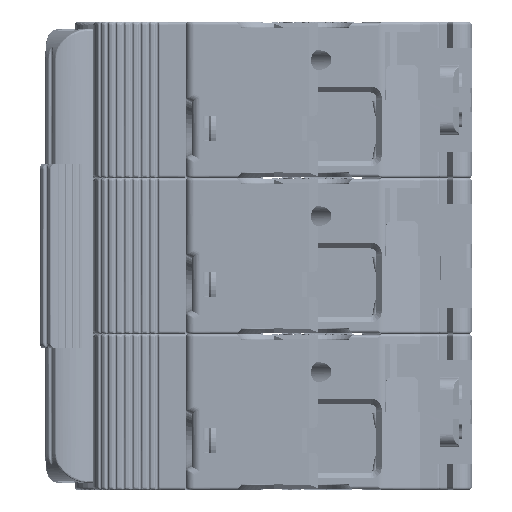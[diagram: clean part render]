
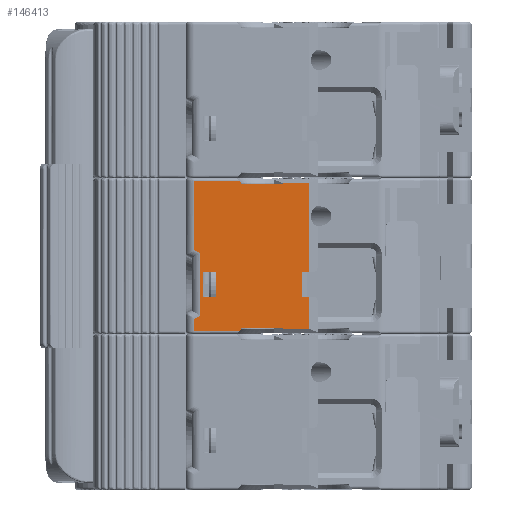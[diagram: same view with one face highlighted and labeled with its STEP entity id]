
A CAD part, left-side view. The second image highlights one B-rep face of the part: STEP entity #146413.
In plain terms, the highlighted planar face has unit normal (-1, 0, 0).
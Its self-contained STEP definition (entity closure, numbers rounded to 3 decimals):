
#4356=DIRECTION('',(0.,1.,0.));
#4357=VECTOR('',#4356,7.7);
#4358=CARTESIAN_POINT('',(-40.15,34.8,53.5));
#4359=LINE('',#4358,#4357);
#4360=DIRECTION('',(0.,0.894,0.447));
#4361=VECTOR('',#4360,1.118);
#4362=CARTESIAN_POINT('',(-40.15,41.5,41.027));
#4363=LINE('',#4362,#4361);
#4364=DIRECTION('',(0.,-0.707,-0.707));
#4365=VECTOR('',#4364,0.424);
#4366=CARTESIAN_POINT('',(-40.15,34.8,53.5));
#4367=LINE('',#4366,#4365);
#4368=DIRECTION('',(0.,-1.,0.));
#4369=VECTOR('',#4368,1.1);
#4370=CARTESIAN_POINT('',(-40.15,23.8,33.4));
#4371=LINE('',#4370,#4369);
#4372=DIRECTION('',(0.,0.707,-0.707));
#4373=VECTOR('',#4372,0.424);
#4374=CARTESIAN_POINT('',(-40.15,34.5,27.8));
#4375=LINE('',#4374,#4373);
#4376=DIRECTION('',(0.,-0.894,0.447));
#4377=VECTOR('',#4376,1.118);
#4378=CARTESIAN_POINT('',(-40.15,42.5,29.673));
#4379=LINE('',#4378,#4377);
#4380=DIRECTION('',(0.,1.,0.));
#4381=VECTOR('',#4380,2.3);
#4382=CARTESIAN_POINT('',(-40.15,38.8,37.8));
#4383=LINE('',#4382,#4381);
#4388=DIRECTION('',(0.,0.,-1.));
#4389=VECTOR('',#4388,10.854);
#4390=CARTESIAN_POINT('',(-40.15,41.5,41.027));
#4391=LINE('',#4390,#4389);
#4491=DIRECTION('',(0.,0.,1.));
#4492=VECTOR('',#4491,4.4);
#4493=CARTESIAN_POINT('',(-40.15,41.1,33.4));
#4494=LINE('',#4493,#4492);
#4548=DIRECTION('',(0.,0.,-1.));
#4549=VECTOR('',#4548,4.4);
#4550=CARTESIAN_POINT('',(-40.15,38.8,37.8));
#4551=LINE('',#4550,#4549);
#13450=DIRECTION('',(0.,0.,-1.));
#13451=VECTOR('',#13450,11.973);
#13452=CARTESIAN_POINT('',(-40.15,42.5,53.5));
#13453=LINE('',#13452,#13451);
#16333=DIRECTION('',(0.,1.,0.));
#16334=VECTOR('',#16333,2.3);
#16335=CARTESIAN_POINT('',(-40.15,38.8,33.4));
#16336=LINE('',#16335,#16334);
#16788=DIRECTION('',(0.,-1.,0.));
#16789=VECTOR('',#16788,7.7);
#16790=CARTESIAN_POINT('',(-40.15,42.5,27.5));
#16791=LINE('',#16790,#16789);
#19212=DIRECTION('',(0.,0.,1.));
#19213=VECTOR('',#19212,0.2);
#19214=CARTESIAN_POINT('',(-40.15,34.5,27.8));
#19215=LINE('',#19214,#19213);
#19250=DIRECTION('',(0.,-1.,0.));
#19251=VECTOR('',#19250,7.3);
#19252=CARTESIAN_POINT('',(-40.15,34.5,28.));
#19253=LINE('',#19252,#19251);
#19266=DIRECTION('',(0.,0.,-1.));
#19267=VECTOR('',#19266,0.12);
#19268=CARTESIAN_POINT('',(-40.15,27.2,28.));
#19269=LINE('',#19268,#19267);
#19278=DIRECTION('',(0.,-1.,0.));
#19279=VECTOR('',#19278,4.5);
#19280=CARTESIAN_POINT('',(-40.15,27.2,27.88));
#19281=LINE('',#19280,#19279);
#19294=DIRECTION('',(0.,0.,1.));
#19295=VECTOR('',#19294,5.52);
#19296=CARTESIAN_POINT('',(-40.15,22.7,27.88));
#19297=LINE('',#19296,#19295);
#19371=DIRECTION('',(0.,0.,1.));
#19372=VECTOR('',#19371,4.4);
#19373=CARTESIAN_POINT('',(-40.15,23.8,33.4));
#19374=LINE('',#19373,#19372);
#19411=DIRECTION('',(0.,-1.,0.));
#19412=VECTOR('',#19411,1.1);
#19413=CARTESIAN_POINT('',(-40.15,23.8,37.8));
#19414=LINE('',#19413,#19412);
#19457=DIRECTION('',(0.,0.,1.));
#19458=VECTOR('',#19457,15.32);
#19459=CARTESIAN_POINT('',(-40.15,22.7,37.8));
#19460=LINE('',#19459,#19458);
#19478=DIRECTION('',(0.,1.,0.));
#19479=VECTOR('',#19478,4.5);
#19480=CARTESIAN_POINT('',(-40.15,22.7,53.12));
#19481=LINE('',#19480,#19479);
#19482=DIRECTION('',(0.,0.,-1.));
#19483=VECTOR('',#19482,0.12);
#19484=CARTESIAN_POINT('',(-40.15,27.2,53.12));
#19485=LINE('',#19484,#19483);
#19510=DIRECTION('',(0.,1.,0.));
#19511=VECTOR('',#19510,7.3);
#19512=CARTESIAN_POINT('',(-40.15,27.2,53.));
#19513=LINE('',#19512,#19511);
#19560=DIRECTION('',(0.,0.,1.));
#19561=VECTOR('',#19560,0.2);
#19562=CARTESIAN_POINT('',(-40.15,34.5,53.));
#19563=LINE('',#19562,#19561);
#94096=DIRECTION('',(0.,0.,-1.));
#94097=VECTOR('',#94096,2.173);
#94098=CARTESIAN_POINT('',(-40.15,42.5,29.673));
#94099=LINE('',#94098,#94097);
#94171=CARTESIAN_POINT('',(-40.15,41.5,30.173));
#123990=CARTESIAN_POINT('',(-40.15,41.1,33.4));
#123991=VERTEX_POINT('',#123990);
#123996=VERTEX_POINT('',#94171);
#123997=CARTESIAN_POINT('',(-40.15,23.8,33.4));
#123998=CARTESIAN_POINT('',(-40.15,22.7,33.4));
#123999=VERTEX_POINT('',#123997);
#124000=VERTEX_POINT('',#123998);
#124001=CARTESIAN_POINT('',(-40.15,22.7,27.88));
#124002=VERTEX_POINT('',#124001);
#124003=CARTESIAN_POINT('',(-40.15,27.2,27.88));
#124004=VERTEX_POINT('',#124003);
#124005=CARTESIAN_POINT('',(-40.15,27.2,28.));
#124006=VERTEX_POINT('',#124005);
#124007=CARTESIAN_POINT('',(-40.15,34.5,28.));
#124008=VERTEX_POINT('',#124007);
#124009=CARTESIAN_POINT('',(-40.15,34.5,27.8));
#124010=VERTEX_POINT('',#124009);
#124011=CARTESIAN_POINT('',(-40.15,34.8,27.5));
#124012=VERTEX_POINT('',#124011);
#124013=CARTESIAN_POINT('',(-40.15,42.5,27.5));
#124014=VERTEX_POINT('',#124013);
#124015=CARTESIAN_POINT('',(-40.15,42.5,29.673));
#124016=VERTEX_POINT('',#124015);
#124017=CARTESIAN_POINT('',(-40.15,38.8,33.4));
#124018=VERTEX_POINT('',#124017);
#129932=CARTESIAN_POINT('',(-40.15,22.7,37.8));
#129933=VERTEX_POINT('',#129932);
#129934=CARTESIAN_POINT('',(-40.15,22.7,53.12));
#129935=VERTEX_POINT('',#129934);
#129945=CARTESIAN_POINT('',(-40.15,27.2,53.12));
#129947=VERTEX_POINT('',#129945);
#129950=CARTESIAN_POINT('',(-40.15,27.2,53.));
#129951=VERTEX_POINT('',#129950);
#129954=CARTESIAN_POINT('',(-40.15,41.5,41.027));
#129955=CARTESIAN_POINT('',(-40.15,42.5,41.527));
#129956=VERTEX_POINT('',#129954);
#129957=VERTEX_POINT('',#129955);
#129958=CARTESIAN_POINT('',(-40.15,42.5,53.5));
#129959=VERTEX_POINT('',#129958);
#129960=CARTESIAN_POINT('',(-40.15,34.8,53.5));
#129961=VERTEX_POINT('',#129960);
#129962=CARTESIAN_POINT('',(-40.15,34.5,53.2));
#129963=VERTEX_POINT('',#129962);
#129964=CARTESIAN_POINT('',(-40.15,34.5,53.));
#129965=VERTEX_POINT('',#129964);
#129966=CARTESIAN_POINT('',(-40.15,23.8,37.8));
#129967=VERTEX_POINT('',#129966);
#129968=CARTESIAN_POINT('',(-40.15,38.8,37.8));
#129969=CARTESIAN_POINT('',(-40.15,41.1,37.8));
#129970=VERTEX_POINT('',#129968);
#129971=VERTEX_POINT('',#129969);
#146354=CARTESIAN_POINT('',(-40.15,44.,28.8));
#146355=DIRECTION('',(1.,0.,0.));
#146356=DIRECTION('',(0.,0.,1.));
#146357=AXIS2_PLACEMENT_3D('',#146354,#146355,#146356);
#146358=PLANE('',#146357);
#146360=ORIENTED_EDGE('',*,*,#146359,.F.);
#146362=ORIENTED_EDGE('',*,*,#146361,.T.);
#146364=ORIENTED_EDGE('',*,*,#146363,.F.);
#146365=ORIENTED_EDGE('',*,*,#146347,.F.);
#146366=ORIENTED_EDGE('',*,*,#146299,.T.);
#146368=ORIENTED_EDGE('',*,*,#146367,.F.);
#146370=ORIENTED_EDGE('',*,*,#146369,.F.);
#146372=ORIENTED_EDGE('',*,*,#146371,.F.);
#146374=ORIENTED_EDGE('',*,*,#146373,.F.);
#146376=ORIENTED_EDGE('',*,*,#146375,.F.);
#146378=ORIENTED_EDGE('',*,*,#146377,.F.);
#146380=ORIENTED_EDGE('',*,*,#146379,.F.);
#146382=ORIENTED_EDGE('',*,*,#146381,.T.);
#146384=ORIENTED_EDGE('',*,*,#146383,.F.);
#146386=ORIENTED_EDGE('',*,*,#146385,.F.);
#146388=ORIENTED_EDGE('',*,*,#146387,.F.);
#146390=ORIENTED_EDGE('',*,*,#146389,.F.);
#146392=ORIENTED_EDGE('',*,*,#146391,.F.);
#146394=ORIENTED_EDGE('',*,*,#146393,.T.);
#146396=ORIENTED_EDGE('',*,*,#146395,.F.);
#146398=ORIENTED_EDGE('',*,*,#146397,.F.);
#146400=ORIENTED_EDGE('',*,*,#146399,.T.);
#146401=EDGE_LOOP('',(#146360,#146362,#146364,#146365,#146366,#146368,#146370,
#146372,#146374,#146376,#146378,#146380,#146382,#146384,#146386,#146388,#146390,
#146392,#146394,#146396,#146398,#146400));
#146402=FACE_OUTER_BOUND('',#146401,.F.);
#146404=ORIENTED_EDGE('',*,*,#146403,.F.);
#146406=ORIENTED_EDGE('',*,*,#146405,.T.);
#146408=ORIENTED_EDGE('',*,*,#146407,.F.);
#146410=ORIENTED_EDGE('',*,*,#146409,.F.);
#146411=EDGE_LOOP('',(#146404,#146406,#146408,#146410));
#146412=FACE_BOUND('',#146411,.F.);
#146413=ADVANCED_FACE('',(#146402,#146412),#146358,.F.);
#146299=EDGE_CURVE('',#129961,#129963,#4367,.T.);
#146347=EDGE_CURVE('',#129961,#129959,#4359,.T.);
#146359=EDGE_CURVE('',#129956,#123996,#4391,.T.);
#146361=EDGE_CURVE('',#129956,#129957,#4363,.T.);
#146363=EDGE_CURVE('',#129959,#129957,#13453,.T.);
#146367=EDGE_CURVE('',#129965,#129963,#19563,.T.);
#146369=EDGE_CURVE('',#129951,#129965,#19513,.T.);
#146371=EDGE_CURVE('',#129947,#129951,#19485,.T.);
#146373=EDGE_CURVE('',#129935,#129947,#19481,.T.);
#146375=EDGE_CURVE('',#129933,#129935,#19460,.T.);
#146377=EDGE_CURVE('',#129967,#129933,#19414,.T.);
#146379=EDGE_CURVE('',#123999,#129967,#19374,.T.);
#146381=EDGE_CURVE('',#123999,#124000,#4371,.T.);
#146383=EDGE_CURVE('',#124002,#124000,#19297,.T.);
#146385=EDGE_CURVE('',#124004,#124002,#19281,.T.);
#146387=EDGE_CURVE('',#124006,#124004,#19269,.T.);
#146389=EDGE_CURVE('',#124008,#124006,#19253,.T.);
#146391=EDGE_CURVE('',#124010,#124008,#19215,.T.);
#146393=EDGE_CURVE('',#124010,#124012,#4375,.T.);
#146395=EDGE_CURVE('',#124014,#124012,#16791,.T.);
#146397=EDGE_CURVE('',#124016,#124014,#94099,.T.);
#146399=EDGE_CURVE('',#124016,#123996,#4379,.T.);
#146403=EDGE_CURVE('',#129970,#124018,#4551,.T.);
#146405=EDGE_CURVE('',#129970,#129971,#4383,.T.);
#146407=EDGE_CURVE('',#123991,#129971,#4494,.T.);
#146409=EDGE_CURVE('',#124018,#123991,#16336,.T.);
